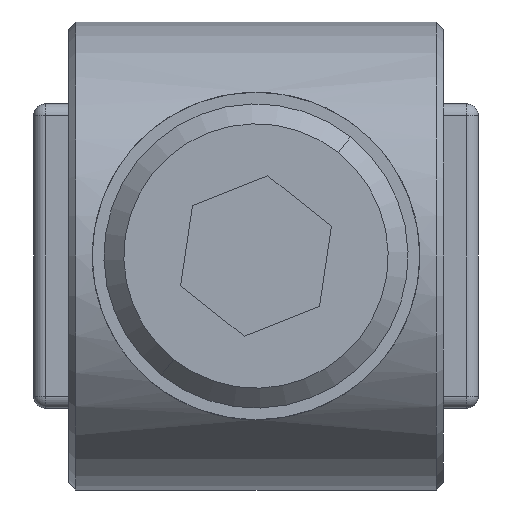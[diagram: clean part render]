
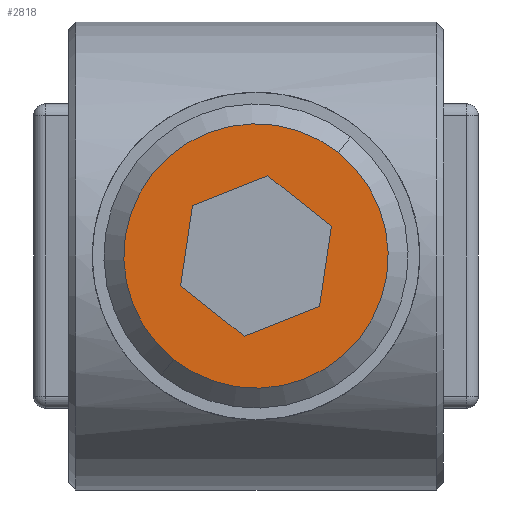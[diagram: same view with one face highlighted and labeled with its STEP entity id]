
A CAD part, left-side view. The second image highlights one B-rep face of the part: STEP entity #2818.
In plain terms, the highlighted planar face has unit normal (-1, 0, 0).
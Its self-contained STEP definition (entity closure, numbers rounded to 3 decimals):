
#98 = AXIS2_PLACEMENT_3D ( 'NONE', #753, #3024, #1321 ) ;
#120 = VERTEX_POINT ( 'NONE', #345 ) ;
#182 = DIRECTION ( 'NONE',  ( 0., 0.5, 0.866 ) ) ;
#223 = VECTOR ( 'NONE', #182, 1000. ) ;
#246 = EDGE_CURVE ( 'NONE', #2637, #2153, #2337, .T. ) ;
#268 = EDGE_LOOP ( 'NONE', ( #3337, #1397, #534, #1290, #885, #3214 ) ) ;
#277 = DIRECTION ( 'NONE',  ( 0., 1., 0. ) ) ;
#345 = CARTESIAN_POINT ( 'NONE',  ( 0., 0., 5.65 ) ) ;
#383 = CARTESIAN_POINT ( 'NONE',  ( 0., -1.732, 3. ) ) ;
#465 = EDGE_CURVE ( 'NONE', #2153, #814, #1910, .T. ) ;
#482 = VECTOR ( 'NONE', #1792, 1000. ) ;
#534 = ORIENTED_EDGE ( 'NONE', *, *, #2954, .T. ) ;
#583 = EDGE_CURVE ( 'NONE', #3420, #977, #689, .T. ) ;
#634 = EDGE_CURVE ( 'NONE', #814, #985, #2370, .T. ) ;
#689 = LINE ( 'NONE', #1237, #482 ) ;
#730 = AXIS2_PLACEMENT_3D ( 'NONE', #919, #3114, #2363 ) ;
#741 = CARTESIAN_POINT ( 'NONE',  ( 0., 3.464, 0. ) ) ;
#753 = CARTESIAN_POINT ( 'NONE',  ( 0., 0., 0. ) ) ;
#768 = PLANE ( 'NONE',  #2813 ) ;
#814 = VERTEX_POINT ( 'NONE', #1084 ) ;
#851 = VECTOR ( 'NONE', #277, 1000. ) ;
#885 = ORIENTED_EDGE ( 'NONE', *, *, #465, .T. ) ;
#919 = CARTESIAN_POINT ( 'NONE',  ( 0., 0., 0. ) ) ;
#977 = VERTEX_POINT ( 'NONE', #1934 ) ;
#980 = CARTESIAN_POINT ( 'NONE',  ( 0., 1.732, -3. ) ) ;
#985 = VERTEX_POINT ( 'NONE', #3061 ) ;
#1084 = CARTESIAN_POINT ( 'NONE',  ( 0., 1.732, 3. ) ) ;
#1237 = CARTESIAN_POINT ( 'NONE',  ( 0., -3.464, 0. ) ) ;
#1290 = ORIENTED_EDGE ( 'NONE', *, *, #246, .T. ) ;
#1321 = DIRECTION ( 'NONE',  ( 0., 0., -1. ) ) ;
#1397 = ORIENTED_EDGE ( 'NONE', *, *, #583, .T. ) ;
#1445 = DIRECTION ( 'NONE',  ( 0., 0., -1. ) ) ;
#1485 = VECTOR ( 'NONE', #2640, 1000. ) ;
#1529 = LINE ( 'NONE', #383, #1485 ) ;
#1659 = DIRECTION ( 'NONE',  ( 1., 0., 0. ) ) ;
#1696 = LINE ( 'NONE', #2293, #851 ) ;
#1792 = DIRECTION ( 'NONE',  ( 0., 0.5, -0.866 ) ) ;
#1881 = CARTESIAN_POINT ( 'NONE',  ( 0., 0., 0. ) ) ;
#1898 = EDGE_CURVE ( 'NONE', #2618, #120, #2299, .T. ) ;
#1910 = LINE ( 'NONE', #2205, #3256 ) ;
#1934 = CARTESIAN_POINT ( 'NONE',  ( 0., -1.732, -3. ) ) ;
#2063 = CARTESIAN_POINT ( 'NONE',  ( 0., 1.732, 3. ) ) ;
#2106 = VECTOR ( 'NONE', #2895, 1000. ) ;
#2153 = VERTEX_POINT ( 'NONE', #741 ) ;
#2205 = CARTESIAN_POINT ( 'NONE',  ( 0., 3.464, 0. ) ) ;
#2293 = CARTESIAN_POINT ( 'NONE',  ( 0., -1.732, -3. ) ) ;
#2299 = CIRCLE ( 'NONE', #730, 5.65 ) ;
#2337 = LINE ( 'NONE', #2390, #223 ) ;
#2363 = DIRECTION ( 'NONE',  ( 0., 0., -1. ) ) ;
#2370 = LINE ( 'NONE', #2063, #2106 ) ;
#2390 = CARTESIAN_POINT ( 'NONE',  ( 0., 1.732, -3. ) ) ;
#2459 = ORIENTED_EDGE ( 'NONE', *, *, #1898, .T. ) ;
#2618 = VERTEX_POINT ( 'NONE', #2945 ) ;
#2637 = VERTEX_POINT ( 'NONE', #980 ) ;
#2640 = DIRECTION ( 'NONE',  ( 0., -0.5, -0.866 ) ) ;
#2750 = CARTESIAN_POINT ( 'NONE',  ( 0., -3.464, 0. ) ) ;
#2773 = EDGE_CURVE ( 'NONE', #120, #2618, #3501, .T. ) ;
#2813 = AXIS2_PLACEMENT_3D ( 'NONE', #1881, #1659, #1445 ) ;
#2818 = ADVANCED_FACE ( 'NONE', ( #3527, #3241 ), #768, .F. ) ;
#2895 = DIRECTION ( 'NONE',  ( 0., -1., 0. ) ) ;
#2945 = CARTESIAN_POINT ( 'NONE',  ( 0., 0., -5.65 ) ) ;
#2954 = EDGE_CURVE ( 'NONE', #977, #2637, #1696, .T. ) ;
#3015 = EDGE_LOOP ( 'NONE', ( #2459, #3502 ) ) ;
#3024 = DIRECTION ( 'NONE',  ( -1., 0., 0. ) ) ;
#3061 = CARTESIAN_POINT ( 'NONE',  ( 0., -1.732, 3. ) ) ;
#3069 = EDGE_CURVE ( 'NONE', #985, #3420, #1529, .T. ) ;
#3114 = DIRECTION ( 'NONE',  ( -1., 0., 0. ) ) ;
#3214 = ORIENTED_EDGE ( 'NONE', *, *, #634, .T. ) ;
#3241 = FACE_BOUND ( 'NONE', #268, .T. ) ;
#3256 = VECTOR ( 'NONE', #3554, 1000. ) ;
#3337 = ORIENTED_EDGE ( 'NONE', *, *, #3069, .T. ) ;
#3420 = VERTEX_POINT ( 'NONE', #2750 ) ;
#3501 = CIRCLE ( 'NONE', #98, 5.65 ) ;
#3502 = ORIENTED_EDGE ( 'NONE', *, *, #2773, .T. ) ;
#3527 = FACE_OUTER_BOUND ( 'NONE', #3015, .T. ) ;
#3554 = DIRECTION ( 'NONE',  ( 0., -0.5, 0.866 ) ) ;
